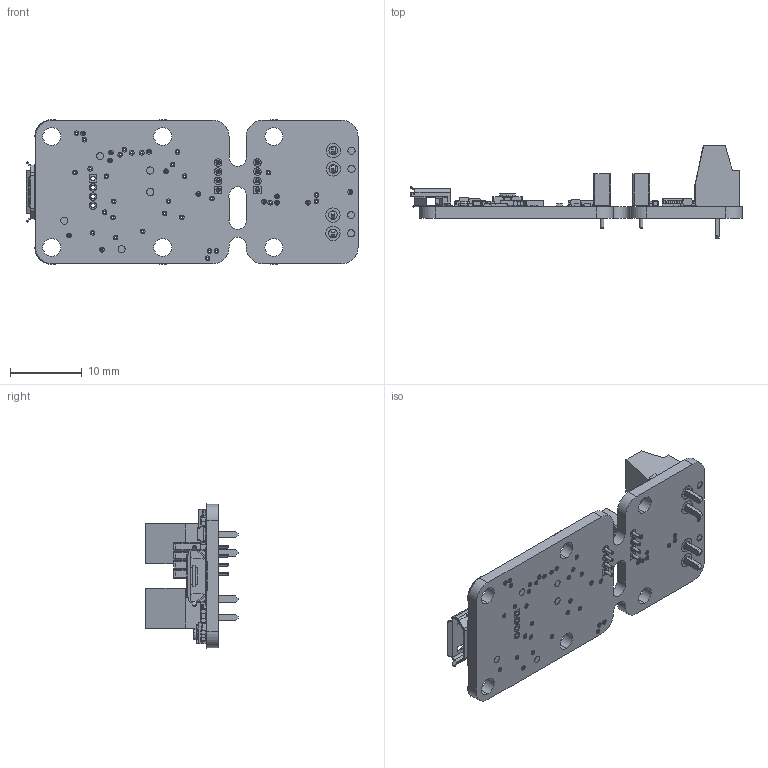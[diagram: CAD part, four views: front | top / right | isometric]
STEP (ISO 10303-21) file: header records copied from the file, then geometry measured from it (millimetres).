
FILE_DESCRIPTION (( 'STEP AP214' ), '1' );
FILE_NAME ('yoctotemp-hipower.STEP', '2014-01-28T11:15:15', ( 'martinm' ), ( '' ), 'SwSTEP 2.0', 'SolidWorks 2008', '' );
FILE_SCHEMA (( 'AUTOMOTIVE_DESIGN' ));
Length unit declared in the file: millimetre
Products named in the file (33): PCB; AD1; C2; C11; C16; C17; C18; C19; D2; FLASH1; P3; P5; PVSS; R1; R2; R3; R4; R7; R11; R12; R17; R18; R19; R20; REG1; SW1; T1; TEMP1; U1; USB1; YLED; sens1; yoctotemp-hipower
Assembly tree (50 placements, depth 2):
  PVSS
  yoctotemp-hipower
    R7  x2
    sens1
    C19
    R3
    C11  x8
    R12
    R17  x5
    P5  x2
    R11
    R19  x4
    TEMP1
    R1
    R20  x2
    R18
    REG1
    C2
    U1
    PCB
    AD1
    P3  x2
    R2
    USB1
    YLED
    C16
    SW1
    C17
    C18
    D2  x2
    R4
    FLASH1
    T1
Bounding box: 46.35 x 12.9 x 20.2 mm (x, y, z)
Volume: 2039.9 mm3; surface area: 3877.5 mm2
Topology: 66 solids, 66 shells, 6884 faces, 17879 edges, 11656 vertices
Faces by surface type: plane 4451, cylinder 1577, bspline 729, sphere 104, torus 23
Entity records: 256731 total; most frequent: CARTESIAN_POINT 66216, ORIENTED_EDGE 28980, DIRECTION 25963, EDGE_CURVE 14490, LINE 10527, VECTOR 10527, VERTEX_POINT 9556, AXIS2_PLACEMENT_3D 7718
